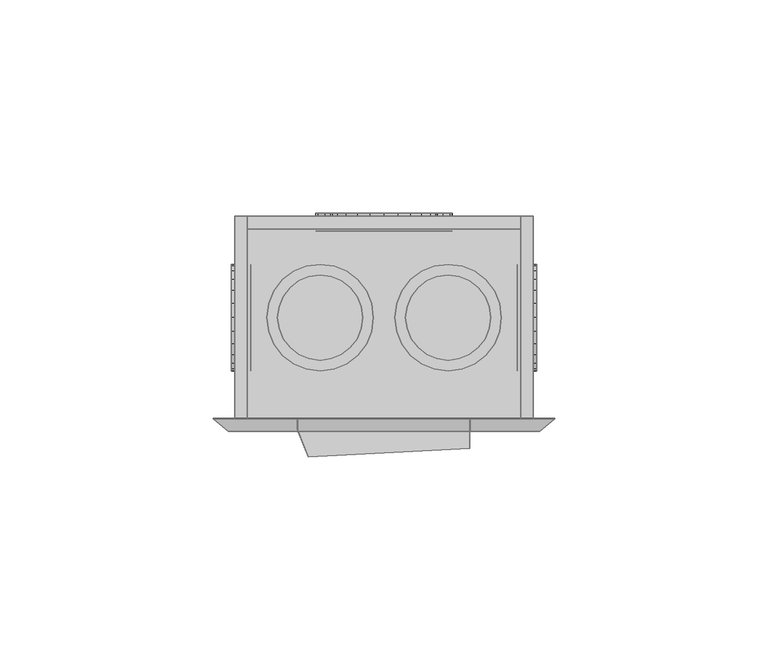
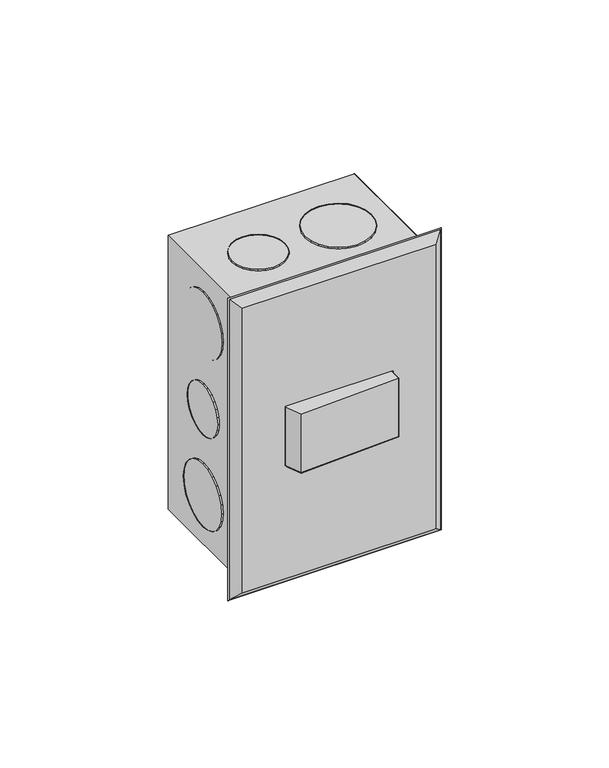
"""IFC4 building model written with IfcOpenShell, lengths in millimetres: proxy geometry,  211103 :  211103."""

from ifc_helpers import new_model, si_unit, origin, place, context, project, spatial, triangles, source, transform, mapped, element, save


def generic_models_f615f667(model_context):
    return source(origin(), model_context, "Body", "Tessellation", [
        triangles([(17486.1001099, 13148.6997437, 1254.3000378), (17483.100293, 13148.6997437, 1148.7000154), (17486.1001099, 13148.6997437, 1145.6999805), (17483.100293, 13148.6997437, 1251.2999302), (17416.0997314, 13148.6997437, 1254.3000378), (17419.0995483, 13148.6997437, 1251.2999302), (17416.0997314, 13148.6997437, 1145.6999805), (17419.0995483, 13148.6997437, 1148.7000154), (17483.100293, 13196.2003326, 1251.2999302), (17483.100293, 13196.2003326, 1148.7000154), (17416.0997314, 13196.2003326, 1254.3000378), (17416.0997314, 13196.2003326, 1145.6999805), (17419.0995483, 13196.2003326, 1251.2999302), (17486.1001099, 13196.2003326, 1145.6999805), (17419.0995483, 13196.2003326, 1148.7000154), (17486.1001099, 13196.2003326, 1254.3000378), (17483.100293, 13193.2005157, 1251.2999302), (17419.0995483, 13193.2005157, 1148.7000154), (17483.100293, 13193.2005157, 1148.7000154), (17419.0995483, 13193.2005157, 1251.2999302), (17465.000235, 13192.7005463, 1191.9999887), (17459.0994324, 13192.7005463, 1186.0999855), (17462.4003937, 13192.7005463, 1188.6999722), (17466.6001373, 13192.7005463, 1195.8999687), (17455.2996643, 13192.7005463, 1184.5000105), (17467.1001068, 13192.7005463, 1200.0000092), (17451.0999207, 13192.7005463, 1183.9999683), (17466.6001373, 13192.7005463, 1204.0999769), (17447.0001709, 13192.7005463, 1184.5000105), (17465.000235, 13192.7005463, 1208.0000296), (17443.1004089, 13192.7005463, 1186.0999855), (17462.4003937, 13192.7005463, 1211.2999735), (17439.7994476, 13192.7005463, 1188.6999722), (17459.0994324, 13192.7005463, 1213.9000328), (17437.2996002, 13192.7005463, 1191.9999887), (17455.2996643, 13192.7005463, 1215.5000078), (17435.6996979, 13192.7005463, 1195.8999687), (17451.0999207, 13192.7005463, 1215.9999773), (17435.0997345, 13192.7005463, 1200.0000092), (17447.0001709, 13192.7005463, 1215.5000078), (17435.6996979, 13192.7005463, 1204.0999769), (17443.1004089, 13192.7005463, 1213.9000328), (17437.2996002, 13192.7005463, 1208.0000296), (17439.7994476, 13192.7005463, 1211.2999735), (17447.0001709, 13196.9002899, 1184.5000105), (17451.0999207, 13196.9002899, 1183.9999683), (17455.2996643, 13196.9002899, 1184.5000105), (17459.0994324, 13196.9002899, 1186.0999855), (17462.4003937, 13196.9002899, 1188.6999722), (17465.000235, 13196.9002899, 1191.9999887), (17466.6001373, 13196.9002899, 1195.8999687), (17467.1001068, 13196.9002899, 1200.0000092), (17466.6001373, 13196.9002899, 1204.0999769), (17465.000235, 13196.9002899, 1208.0000296), (17462.4003937, 13196.9002899, 1211.2999735), (17459.0994324, 13196.9002899, 1213.9000328), (17455.2996643, 13196.9002899, 1215.5000078), (17451.0999207, 13196.9002899, 1215.9999773), (17447.0001709, 13196.9002899, 1215.5000078), (17443.1004089, 13196.9002899, 1213.9000328), (17439.7994476, 13196.9002899, 1211.2999735), (17437.2996002, 13196.9002899, 1208.0000296), (17435.6996979, 13196.9002899, 1204.0999769), (17435.0997345, 13196.9002899, 1200.0000092), (17435.6996979, 13196.9002899, 1195.8999687), (17437.2996002, 13196.9002899, 1191.9999887), (17439.7994476, 13196.9002899, 1188.6999722), (17443.1004089, 13196.9002899, 1186.0999855), (17462.0004181, 13192.7005463, 1227.8000565), (17457.3995361, 13192.7005463, 1223.2000465), (17460.0005402, 13192.7005463, 1225.2000698), (17463.2003448, 13192.7005463, 1230.8000187), (17454.3997192, 13192.7005463, 1221.8999805), (17463.6003204, 13192.7005463, 1233.9999687), (17451.0999207, 13192.7005463, 1221.500005), (17463.2003448, 13192.7005463, 1237.2000641), (17447.900116, 13192.7005463, 1221.8999805), (17462.0004181, 13192.7005463, 1240.3000202), (17444.9002991, 13192.7005463, 1223.2000465), (17460.0005402, 13192.7005463, 1242.800013), (17442.3004578, 13192.7005463, 1225.2000698), (17440.3005798, 13192.7005463, 1227.8000565), (17457.3995361, 13192.7005463, 1244.8000362), (17454.3997192, 13192.7005463, 1246.0999569), (17439.0994904, 13192.7005463, 1230.8000187), (17451.0999207, 13192.7005463, 1246.4999325), (17438.5995209, 13192.7005463, 1233.9999687), (17447.900116, 13192.7005463, 1246.0999569), (17439.0994904, 13192.7005463, 1237.2000641), (17440.3005798, 13192.7005463, 1240.3000202), (17444.9002991, 13192.7005463, 1244.8000362), (17442.3004578, 13192.7005463, 1242.800013), (17439.0994904, 13196.9002899, 1230.8000187), (17440.3005798, 13196.9002899, 1227.8000565), (17442.3004578, 13196.9002899, 1225.2000698), (17444.9002991, 13196.9002899, 1223.2000465), (17447.900116, 13196.9002899, 1221.8999805), (17451.0999207, 13196.9002899, 1221.500005), (17454.3997192, 13196.9002899, 1221.8999805), (17457.3995361, 13196.9002899, 1223.2000465), (17460.0005402, 13196.9002899, 1225.2000698), (17462.0004181, 13196.9002899, 1227.8000565), (17463.2003448, 13196.9002899, 1230.8000187), (17463.6003204, 13196.9002899, 1233.9999687), (17463.2003448, 13196.9002899, 1237.2000641), (17462.0004181, 13196.9002899, 1240.3000202), (17460.0005402, 13196.9002899, 1242.800013), (17457.3995361, 13196.9002899, 1244.8000362), (17454.3997192, 13196.9002899, 1246.0999569), (17451.0999207, 13196.9002899, 1246.4999325), (17447.900116, 13196.9002899, 1246.0999569), (17444.9002991, 13196.9002899, 1244.8000362), (17442.3004578, 13196.9002899, 1242.800013), (17440.3005798, 13196.9002899, 1240.3000202), (17439.0994904, 13196.9002899, 1237.2000641), (17438.5995209, 13196.9002899, 1233.9999687), (17457.3995361, 13196.9002899, 1155.1999821), (17462.0004181, 13196.9002899, 1159.6999981), (17460.0005402, 13196.9002899, 1157.2000053), (17454.3997192, 13196.9002899, 1153.8999887), (17463.2003448, 13196.9002899, 1162.8000269), (17451.0999207, 13196.9002899, 1153.5000132), (17463.6003204, 13196.9002899, 1165.9999769), (17447.900116, 13196.9002899, 1153.8999887), (17463.2003448, 13196.9002899, 1169.1999996), (17444.9002991, 13196.9002899, 1155.1999821), (17462.0004181, 13196.9002899, 1172.2000345), (17442.3004578, 13196.9002899, 1157.2000053), (17460.0005402, 13196.9002899, 1174.8000212), (17440.3005798, 13196.9002899, 1159.6999981), (17457.3995361, 13196.9002899, 1176.7999718), (17439.0994904, 13196.9002899, 1162.8000269), (17454.3997192, 13196.9002899, 1178.0999651), (17451.0999207, 13196.9002899, 1178.5000134), (17438.5995209, 13196.9002899, 1165.9999769), (17439.0994904, 13196.9002899, 1169.1999996), (17447.900116, 13196.9002899, 1178.0999651), (17440.3005798, 13196.9002899, 1172.2000345), (17444.9002991, 13196.9002899, 1176.7999718), (17442.3004578, 13196.9002899, 1174.8000212), (17454.3997192, 13192.7005463, 1178.0999651), (17451.0999207, 13192.7005463, 1178.5000134), (17457.3995361, 13192.7005463, 1176.7999718), (17460.0005402, 13192.7005463, 1174.8000212), (17462.0004181, 13192.7005463, 1172.2000345), (17463.2003448, 13192.7005463, 1169.1999996), (17463.6003204, 13192.7005463, 1165.9999769), (17463.2003448, 13192.7005463, 1162.8000269), (17462.0004181, 13192.7005463, 1159.6999981), (17460.0005402, 13192.7005463, 1157.2000053), (17457.3995361, 13192.7005463, 1155.1999821), (17454.3997192, 13192.7005463, 1153.8999887), (17451.0999207, 13192.7005463, 1153.5000132), (17447.900116, 13192.7005463, 1153.8999887), (17444.9002991, 13192.7005463, 1155.1999821), (17442.3004578, 13192.7005463, 1157.2000053), (17440.3005798, 13192.7005463, 1159.6999981), (17439.0994904, 13192.7005463, 1162.8000269), (17438.5995209, 13192.7005463, 1165.9999769), (17439.0994904, 13192.7005463, 1169.1999996), (17440.3005798, 13192.7005463, 1172.2000345), (17442.3004578, 13192.7005463, 1174.8000212), (17444.9002991, 13192.7005463, 1176.7999718), (17447.900116, 13192.7005463, 1178.0999651), (17482.3003418, 13177.4003174, 1191.3000315), (17482.3003418, 13181.1000916, 1195.0000237), (17482.3003418, 13179.5001892, 1192.9000065), (17482.3003418, 13182.1000305, 1197.4000225), (17482.3003418, 13175.0004639, 1190.3000198), (17482.3003418, 13182.4000122, 1200.0000092), (17482.3003418, 13172.3994598, 1189.9999655), (17482.3003418, 13169.8996124, 1190.3000198), (17482.3003418, 13182.1000305, 1202.5999958), (17482.3003418, 13181.1000916, 1204.9999947), (17482.3003418, 13167.399765, 1191.3000315), (17482.3003418, 13179.5001892, 1207.1000118), (17482.3003418, 13165.3998871, 1192.9000065), (17482.3003418, 13163.7999847, 1195.0000237), (17482.3003418, 13177.4003174, 1208.6999868), (17482.3003418, 13162.8000458, 1197.4000225), (17482.3003418, 13175.0004639, 1209.6999985), (17482.3003418, 13162.4000702, 1200.0000092), (17482.3003418, 13172.3994598, 1209.9999802), (17482.3003418, 13162.8000458, 1202.5999958), (17482.3003418, 13169.8996124, 1209.6999985), (17482.3003418, 13167.399765, 1208.6999868), (17482.3003418, 13163.7999847, 1204.9999947), (17482.3003418, 13165.3998871, 1207.1000118), (17486.900061, 13172.3994598, 1189.9999655), (17486.900061, 13175.0004639, 1190.3000198), (17486.900061, 13169.8996124, 1190.3000198), (17486.900061, 13167.399765, 1191.3000315), (17486.900061, 13165.3998871, 1192.9000065), (17486.900061, 13163.7999847, 1195.0000237), (17486.900061, 13162.8000458, 1197.4000225), (17486.900061, 13162.4000702, 1200.0000092), (17486.900061, 13162.8000458, 1202.5999958), (17486.900061, 13163.7999847, 1204.9999947), (17486.900061, 13165.3998871, 1207.1000118), (17486.900061, 13167.399765, 1208.6999868), (17486.900061, 13169.8996124, 1209.6999985), (17486.900061, 13172.3994598, 1209.9999802), (17486.900061, 13175.0004639, 1209.6999985), (17486.900061, 13177.4003174, 1208.6999868), (17486.900061, 13179.5001892, 1207.1000118), (17486.900061, 13181.1000916, 1204.9999947), (17486.900061, 13182.1000305, 1202.5999958), (17486.900061, 13182.4000122, 1200.0000092), (17486.900061, 13182.1000305, 1197.4000225), (17486.900061, 13181.1000916, 1195.0000237), (17486.900061, 13179.5001892, 1192.9000065), (17486.900061, 13177.4003174, 1191.3000315), (17482.3003418, 13178.700238, 1223.2000465), (17482.3003418, 13183.2999573, 1227.8000565), (17482.3003418, 13181.3000793, 1225.2000698), (17482.3003418, 13175.7004211, 1221.8999805), (17482.3003418, 13184.499884, 1230.8000187), (17482.3003418, 13184.8998596, 1233.9999687), (17482.3003418, 13172.3994598, 1221.500005), (17482.3003418, 13169.1996552, 1221.8999805), (17482.3003418, 13184.499884, 1237.2000641), (17482.3003418, 13183.2999573, 1240.3000202), (17482.3003418, 13166.1998383, 1223.2000465), (17482.3003418, 13163.5999969, 1225.2000698), (17482.3003418, 13181.3000793, 1242.800013), (17482.3003418, 13161.600119, 1227.8000565), (17482.3003418, 13178.700238, 1244.8000362), (17482.3003418, 13160.4001923, 1230.8000187), (17482.3003418, 13175.7004211, 1246.0999569), (17482.3003418, 13159.9002228, 1233.9999687), (17482.3003418, 13172.3994598, 1246.4999325), (17482.3003418, 13160.4001923, 1237.2000641), (17482.3003418, 13169.1996552, 1246.0999569), (17482.3003418, 13161.600119, 1240.3000202), (17482.3003418, 13166.1998383, 1244.8000362), (17482.3003418, 13163.5999969, 1242.800013), (17486.900061, 13172.3994598, 1221.500005), (17486.900061, 13175.7004211, 1221.8999805), (17486.900061, 13169.1996552, 1221.8999805), (17486.900061, 13166.1998383, 1223.2000465), (17486.900061, 13163.5999969, 1225.2000698), (17486.900061, 13161.600119, 1227.8000565), (17486.900061, 13160.4001923, 1230.8000187), (17486.900061, 13159.9002228, 1233.9999687), (17486.900061, 13160.4001923, 1237.2000641), (17486.900061, 13161.600119, 1240.3000202), (17486.900061, 13163.5999969, 1242.800013), (17486.900061, 13166.1998383, 1244.8000362), (17486.900061, 13169.1996552, 1246.0999569), (17486.900061, 13172.3994598, 1246.4999325), (17486.900061, 13175.7004211, 1246.0999569), (17486.900061, 13178.700238, 1244.8000362), (17486.900061, 13181.3000793, 1242.800013), (17486.900061, 13183.2999573, 1240.3000202), (17486.900061, 13184.499884, 1237.2000641), (17486.900061, 13184.8998596, 1233.9999687), (17486.900061, 13184.499884, 1230.8000187), (17486.900061, 13183.2999573, 1227.8000565), (17486.900061, 13181.3000793, 1225.2000698), (17486.900061, 13178.700238, 1223.2000465), (17486.900061, 13183.2999573, 1159.6999981), (17486.900061, 13178.700238, 1155.1999821), (17486.900061, 13181.3000793, 1157.2000053), (17486.900061, 13184.499884, 1162.8000269), (17486.900061, 13175.7004211, 1153.8999887), (17486.900061, 13184.8998596, 1165.9999769), (17486.900061, 13172.3994598, 1153.5000132), (17486.900061, 13184.499884, 1169.1999996), (17486.900061, 13169.1996552, 1153.8999887), (17486.900061, 13183.2999573, 1172.2000345), (17486.900061, 13166.1998383, 1155.1999821), (17486.900061, 13181.3000793, 1174.8000212), (17486.900061, 13163.5999969, 1157.2000053), (17486.900061, 13178.700238, 1176.7999718), (17486.900061, 13161.600119, 1159.6999981), (17486.900061, 13175.7004211, 1178.0999651), (17486.900061, 13160.4001923, 1162.8000269), (17486.900061, 13172.3994598, 1178.5000134), (17486.900061, 13159.9002228, 1165.9999769), (17486.900061, 13169.1996552, 1178.0999651), (17486.900061, 13160.4001923, 1169.1999996), (17486.900061, 13166.1998383, 1176.7999718), (17486.900061, 13161.600119, 1172.2000345), (17486.900061, 13163.5999969, 1174.8000212), (17482.3003418, 13175.7004211, 1178.0999651), (17482.3003418, 13172.3994598, 1178.5000134), (17482.3003418, 13169.1996552, 1178.0999651), (17482.3003418, 13166.1998383, 1176.7999718), (17482.3003418, 13163.5999969, 1174.8000212), (17482.3003418, 13161.600119, 1172.2000345), (17482.3003418, 13160.4001923, 1169.1999996), (17482.3003418, 13159.9002228, 1165.9999769), (17482.3003418, 13160.4001923, 1162.8000269), (17482.3003418, 13161.600119, 1159.6999981), (17482.3003418, 13163.5999969, 1157.2000053), (17482.3003418, 13166.1998383, 1155.1999821), (17482.3003418, 13169.1996552, 1153.8999887), (17482.3003418, 13172.3994598, 1153.5000132), (17482.3003418, 13175.7004211, 1153.8999887), (17482.3003418, 13178.700238, 1155.1999821), (17482.3003418, 13181.3000793, 1157.2000053), (17482.3003418, 13183.2999573, 1159.6999981), (17482.3003418, 13184.499884, 1162.8000269), (17482.3003418, 13184.8998596, 1165.9999769), (17482.3003418, 13184.499884, 1169.1999996), (17482.3003418, 13183.2999573, 1172.2000345), (17482.3003418, 13181.3000793, 1174.8000212), (17482.3003418, 13178.700238, 1176.7999718), (17419.8994995, 13181.1000916, 1195.0000237), (17419.8994995, 13177.4003174, 1191.3000315), (17419.8994995, 13179.5001892, 1192.9000065), (17419.8994995, 13182.1000305, 1197.4000225), (17419.8994995, 13175.0004639, 1190.3000198), (17419.8994995, 13182.4000122, 1200.0000092), (17419.8994995, 13172.3994598, 1189.9999655), (17419.8994995, 13182.1000305, 1202.5999958), (17419.8994995, 13169.8996124, 1190.3000198), (17419.8994995, 13181.1000916, 1204.9999947), (17419.8994995, 13167.399765, 1191.3000315), (17419.8994995, 13179.5001892, 1207.1000118), (17419.8994995, 13165.3998871, 1192.9000065), (17419.8994995, 13177.4003174, 1208.6999868), (17419.8994995, 13163.7999847, 1195.0000237), (17419.8994995, 13175.0004639, 1209.6999985), (17419.8994995, 13162.8000458, 1197.4000225), (17419.8994995, 13162.4000702, 1200.0000092), (17419.8994995, 13172.3994598, 1209.9999802), (17419.8994995, 13169.8996124, 1209.6999985), (17419.8994995, 13162.8000458, 1202.5999958), (17419.8994995, 13167.399765, 1208.6999868), (17419.8994995, 13163.7999847, 1204.9999947), (17419.8994995, 13165.3998871, 1207.1000118), (17415.2997803, 13175.0004639, 1209.6999985), (17415.2997803, 13172.3994598, 1209.9999802), (17415.2997803, 13169.8996124, 1209.6999985), (17415.2997803, 13167.399765, 1208.6999868), (17415.2997803, 13165.3998871, 1207.1000118), (17415.2997803, 13163.7999847, 1204.9999947), (17415.2997803, 13162.8000458, 1202.5999958), (17415.2997803, 13162.4000702, 1200.0000092), (17415.2997803, 13162.8000458, 1197.4000225), (17415.2997803, 13163.7999847, 1195.0000237), (17415.2997803, 13165.3998871, 1192.9000065), (17415.2997803, 13167.399765, 1191.3000315), (17415.2997803, 13169.8996124, 1190.3000198), (17415.2997803, 13172.3994598, 1189.9999655), (17415.2997803, 13175.0004639, 1190.3000198), (17415.2997803, 13177.4003174, 1191.3000315), (17415.2997803, 13179.5001892, 1192.9000065), (17415.2997803, 13181.1000916, 1195.0000237), (17415.2997803, 13182.1000305, 1197.4000225), (17415.2997803, 13182.4000122, 1200.0000092), (17415.2997803, 13182.1000305, 1202.5999958), (17415.2997803, 13181.1000916, 1204.9999947), (17415.2997803, 13179.5001892, 1207.1000118), (17415.2997803, 13177.4003174, 1208.6999868), (17419.8994995, 13183.2999573, 1159.6999981), (17419.8994995, 13178.700238, 1155.1999821), (17419.8994995, 13181.3000793, 1157.2000053), (17419.8994995, 13184.499884, 1162.8000269), (17419.8994995, 13175.7004211, 1153.8999887), (17419.8994995, 13184.8998596, 1165.9999769), (17419.8994995, 13172.3994598, 1153.5000132), (17419.8994995, 13184.499884, 1169.1999996), (17419.8994995, 13169.1996552, 1153.8999887), (17419.8994995, 13183.2999573, 1172.2000345), (17419.8994995, 13166.1998383, 1155.1999821), (17419.8994995, 13181.3000793, 1174.8000212), (17419.8994995, 13163.5999969, 1157.2000053), (17419.8994995, 13178.700238, 1176.7999718), (17419.8994995, 13161.600119, 1159.6999981), (17419.8994995, 13175.7004211, 1178.0999651), (17419.8994995, 13160.4001923, 1162.8000269), (17419.8994995, 13172.3994598, 1178.5000134), (17419.8994995, 13159.9002228, 1165.9999769), (17419.8994995, 13169.1996552, 1178.0999651), (17419.8994995, 13160.4001923, 1169.1999996), (17419.8994995, 13166.1998383, 1176.7999718), (17419.8994995, 13161.600119, 1172.2000345), (17419.8994995, 13163.5999969, 1174.8000212), (17415.2997803, 13175.7004211, 1178.0999651), (17415.2997803, 13172.3994598, 1178.5000134), (17415.2997803, 13169.1996552, 1178.0999651), (17415.2997803, 13166.1998383, 1176.7999718), (17415.2997803, 13163.5999969, 1174.8000212), (17415.2997803, 13161.600119, 1172.2000345), (17415.2997803, 13160.4001923, 1169.1999996), (17415.2997803, 13159.9002228, 1165.9999769), (17415.2997803, 13160.4001923, 1162.8000269), (17415.2997803, 13161.600119, 1159.6999981), (17415.2997803, 13163.5999969, 1157.2000053), (17415.2997803, 13166.1998383, 1155.1999821), (17415.2997803, 13169.1996552, 1153.8999887), (17415.2997803, 13172.3994598, 1153.5000132), (17415.2997803, 13175.7004211, 1153.8999887), (17415.2997803, 13178.700238, 1155.1999821), (17415.2997803, 13181.3000793, 1157.2000053), (17415.2997803, 13183.2999573, 1159.6999981), (17415.2997803, 13184.499884, 1162.8000269), (17415.2997803, 13184.8998596, 1165.9999769), (17415.2997803, 13184.499884, 1169.1999996), (17415.2997803, 13183.2999573, 1172.2000345), (17415.2997803, 13181.3000793, 1174.8000212), (17415.2997803, 13178.700238, 1176.7999718), (17415.2997803, 13178.700238, 1223.2000465), (17415.2997803, 13183.2999573, 1227.8000565), (17415.2997803, 13181.3000793, 1225.2000698), (17415.2997803, 13175.7004211, 1221.8999805), (17415.2997803, 13184.499884, 1230.8000187), (17415.2997803, 13184.8998596, 1233.9999687), (17415.2997803, 13172.3994598, 1221.500005), (17415.2997803, 13169.1996552, 1221.8999805), (17415.2997803, 13184.499884, 1237.2000641), (17415.2997803, 13183.2999573, 1240.3000202), (17415.2997803, 13166.1998383, 1223.2000465), (17415.2997803, 13163.5999969, 1225.2000698), (17415.2997803, 13181.3000793, 1242.800013), (17415.2997803, 13161.600119, 1227.8000565), (17415.2997803, 13178.700238, 1244.8000362), (17415.2997803, 13160.4001923, 1230.8000187), (17415.2997803, 13175.7004211, 1246.0999569), (17415.2997803, 13159.9002228, 1233.9999687), (17415.2997803, 13172.3994598, 1246.4999325), (17415.2997803, 13160.4001923, 1237.2000641), (17415.2997803, 13169.1996552, 1246.0999569), (17415.2997803, 13161.600119, 1240.3000202), (17415.2997803, 13166.1998383, 1244.8000362), (17415.2997803, 13163.5999969, 1242.800013), (17419.8994995, 13172.3994598, 1221.500005), (17419.8994995, 13175.7004211, 1221.8999805), (17419.8994995, 13169.1996552, 1221.8999805), (17419.8994995, 13166.1998383, 1223.2000465), (17419.8994995, 13163.5999969, 1225.2000698), (17419.8994995, 13161.600119, 1227.8000565), (17419.8994995, 13160.4001923, 1230.8000187), (17419.8994995, 13159.9002228, 1233.9999687), (17419.8994995, 13160.4001923, 1237.2000641), (17419.8994995, 13161.600119, 1240.3000202), (17419.8994995, 13163.5999969, 1242.800013), (17419.8994995, 13166.1998383, 1244.8000362), (17419.8994995, 13169.1996552, 1246.0999569), (17419.8994995, 13172.3994598, 1246.4999325), (17419.8994995, 13175.7004211, 1246.0999569), (17419.8994995, 13178.700238, 1244.8000362), (17419.8994995, 13181.3000793, 1242.800013), (17419.8994995, 13183.2999573, 1240.3000202), (17419.8994995, 13184.499884, 1237.2000641), (17419.8994995, 13184.8998596, 1233.9999687), (17419.8994995, 13184.499884, 1230.8000187), (17419.8994995, 13183.2999573, 1227.8000565), (17419.8994995, 13181.3000793, 1225.2000698), (17419.8994995, 13178.700238, 1223.2000465), (17476.9995026, 13178.700238, 1250.9999485), (17472.3997833, 13183.2999573, 1250.9999485), (17474.9996246, 13181.3000793, 1250.9999485), (17478.1994293, 13175.7004211, 1250.9999485), (17469.3999664, 13184.499884, 1250.9999485), (17466.1001678, 13184.8998596, 1250.9999485), (17478.6005676, 13172.3994598, 1250.9999485), (17478.1994293, 13169.1996552, 1250.9999485), (17462.9003632, 13184.499884, 1250.9999485), (17459.9005463, 13183.2999573, 1250.9999485), (17476.9995026, 13166.1998383, 1250.9999485), (17474.9996246, 13163.5999969, 1250.9999485), (17457.2995422, 13181.3000793, 1250.9999485), (17455.2996643, 13178.700238, 1250.9999485), (17472.3997833, 13161.600119, 1250.9999485), (17469.3999664, 13160.4001923, 1250.9999485), (17454.0997375, 13175.7004211, 1250.9999485), (17466.1001678, 13159.9002228, 1250.9999485), (17453.5997681, 13172.3994598, 1250.9999485), (17462.9003632, 13160.4001923, 1250.9999485), (17454.0997375, 13169.1996552, 1250.9999485), (17455.2996643, 13166.1998383, 1250.9999485), (17459.9005463, 13161.600119, 1250.9999485), (17457.2995422, 13163.5999969, 1250.9999485), (17466.1001678, 13184.8998596, 1255.1999828), (17462.9003632, 13184.499884, 1255.1999828), (17469.3999664, 13184.499884, 1255.1999828), (17472.3997833, 13183.2999573, 1255.1999828), (17474.9996246, 13181.3000793, 1255.1999828), (17476.9995026, 13178.700238, 1255.1999828), (17478.1994293, 13175.7004211, 1255.1999828), (17478.6005676, 13172.3994598, 1255.1999828), (17478.1994293, 13169.1996552, 1255.1999828), (17476.9995026, 13166.1998383, 1255.1999828), (17474.9996246, 13163.5999969, 1255.1999828), (17472.3997833, 13161.600119, 1255.1999828), (17469.3999664, 13160.4001923, 1255.1999828), (17466.1001678, 13159.9002228, 1255.1999828), (17462.9003632, 13160.4001923, 1255.1999828), (17459.9005463, 13161.600119, 1255.1999828), (17457.2995422, 13163.5999969, 1255.1999828), (17455.2996643, 13166.1998383, 1255.1999828), (17454.0997375, 13169.1996552, 1255.1999828), (17453.5997681, 13172.3994598, 1255.1999828), (17454.0997375, 13175.7004211, 1255.1999828), (17455.2996643, 13178.700238, 1255.1999828), (17457.2995422, 13181.3000793, 1255.1999828), (17459.9005463, 13183.2999573, 1255.1999828), (17444.8003052, 13177.4003174, 1250.9999485), (17441.100531, 13181.1000916, 1250.9999485), (17443.2004028, 13179.5001892, 1250.9999485), (17438.6995148, 13182.1000305, 1250.9999485), (17445.8002441, 13175.0004639, 1250.9999485), (17436.0996735, 13182.4000122, 1250.9999485), (17446.1002258, 13172.3994598, 1250.9999485), (17445.8002441, 13169.8996124, 1250.9999485), (17433.4998322, 13182.1000305, 1250.9999485), (17431.0999786, 13181.1000916, 1250.9999485), (17444.8003052, 13167.399765, 1250.9999485), (17429.1001007, 13179.5001892, 1250.9999485), (17443.2004028, 13165.3998871, 1250.9999485), (17441.100531, 13163.7999847, 1250.9999485), (17427.5001984, 13177.4003174, 1250.9999485), (17426.5002594, 13175.0004639, 1250.9999485), (17438.6995148, 13162.8000458, 1250.9999485), (17436.0996735, 13162.4000702, 1250.9999485), (17426.1002838, 13172.3994598, 1250.9999485), (17433.4998322, 13162.8000458, 1250.9999485), (17426.5002594, 13169.8996124, 1250.9999485), (17431.0999786, 13163.7999847, 1250.9999485), (17427.5001984, 13167.399765, 1250.9999485), (17429.1001007, 13165.3998871, 1250.9999485), (17433.4998322, 13182.1000305, 1255.1999828), (17431.0999786, 13181.1000916, 1255.1999828), (17436.0996735, 13182.4000122, 1255.1999828), (17438.6995148, 13182.1000305, 1255.1999828), (17441.100531, 13181.1000916, 1255.1999828), (17443.2004028, 13179.5001892, 1255.1999828), (17444.8003052, 13177.4003174, 1255.1999828), (17445.8002441, 13175.0004639, 1255.1999828), (17446.1002258, 13172.3994598, 1255.1999828), (17445.8002441, 13169.8996124, 1255.1999828), (17444.8003052, 13167.399765, 1255.1999828), (17443.2004028, 13165.3998871, 1255.1999828), (17441.100531, 13163.7999847, 1255.1999828), (17438.6995148, 13162.8000458, 1255.1999828), (17436.0996735, 13162.4000702, 1255.1999828), (17433.4998322, 13162.8000458, 1255.1999828), (17431.0999786, 13163.7999847, 1255.1999828), (17429.1001007, 13165.3998871, 1255.1999828), (17427.5001984, 13167.399765, 1255.1999828), (17426.5002594, 13169.8996124, 1255.1999828), (17426.1002838, 13172.3994598, 1255.1999828), (17426.5002594, 13175.0004639, 1255.1999828), (17427.5001984, 13177.4003174, 1255.1999828), (17429.1001007, 13179.5001892, 1255.1999828), (17474.7996368, 13177.4003174, 1144.8000355), (17471.0998627, 13181.1000916, 1144.8000355), (17473.1997345, 13179.5001892, 1144.8000355), (17468.7000092, 13182.1000305, 1144.8000355), (17475.7995758, 13175.0004639, 1144.8000355), (17466.1001678, 13182.4000122, 1144.8000355), (17476.0995575, 13172.3994598, 1144.8000355), (17475.7995758, 13169.8996124, 1144.8000355), (17463.5003265, 13182.1000305, 1144.8000355), (17461.100473, 13181.1000916, 1144.8000355), (17474.7996368, 13167.399765, 1144.8000355), (17459.0994324, 13179.5001892, 1144.8000355), (17473.1997345, 13165.3998871, 1144.8000355), (17471.0998627, 13163.7999847, 1144.8000355), (17457.49953, 13177.4003174, 1144.8000355), (17456.4995911, 13175.0004639, 1144.8000355), (17468.7000092, 13162.8000458, 1144.8000355), (17466.1001678, 13162.4000702, 1144.8000355), (17456.0996155, 13172.3994598, 1144.8000355), (17463.5003265, 13162.8000458, 1144.8000355), (17456.4995911, 13169.8996124, 1144.8000355), (17461.100473, 13163.7999847, 1144.8000355), (17457.49953, 13167.399765, 1144.8000355), (17459.0994324, 13165.3998871, 1144.8000355), (17468.7000092, 13182.1000305, 1149.099991), (17466.1001678, 13182.4000122, 1149.099991), (17471.0998627, 13181.1000916, 1149.099991), (17473.1997345, 13179.5001892, 1149.099991), (17474.7996368, 13177.4003174, 1149.099991), (17475.7995758, 13175.0004639, 1149.099991), (17476.0995575, 13172.3994598, 1149.099991), (17475.7995758, 13169.8996124, 1149.099991), (17474.7996368, 13167.399765, 1149.099991), (17473.1997345, 13165.3998871, 1149.099991), (17471.0998627, 13163.7999847, 1149.099991), (17468.7000092, 13162.8000458, 1149.099991), (17466.1001678, 13162.4000702, 1149.099991), (17463.5003265, 13162.8000458, 1149.099991), (17461.100473, 13163.7999847, 1149.099991), (17459.0994324, 13165.3998871, 1149.099991), (17457.49953, 13167.399765, 1149.099991), (17456.4995911, 13169.8996124, 1149.099991), (17456.0996155, 13172.3994598, 1149.099991), (17456.4995911, 13175.0004639, 1149.099991), (17457.49953, 13177.4003174, 1149.099991), (17459.0994324, 13179.5001892, 1149.099991), (17461.100473, 13181.1000916, 1149.099991), (17463.5003265, 13182.1000305, 1149.099991), (17447.0001709, 13178.700238, 1144.8000355), (17442.4004517, 13183.2999573, 1144.8000355), (17445.000293, 13181.3000793, 1144.8000355), (17448.2000977, 13175.7004211, 1144.8000355), (17439.399472, 13184.499884, 1144.8000355), (17436.0996735, 13184.8998596, 1144.8000355), (17448.6000732, 13172.3994598, 1144.8000355), (17448.2000977, 13169.1996552, 1144.8000355), (17432.8998688, 13184.499884, 1144.8000355), (17429.9000519, 13183.2999573, 1144.8000355), (17447.0001709, 13166.1998383, 1144.8000355), (17445.000293, 13163.5999969, 1144.8000355), (17427.3002106, 13181.3000793, 1144.8000355), (17425.3003326, 13178.700238, 1144.8000355), (17442.4004517, 13161.600119, 1144.8000355), (17439.399472, 13160.4001923, 1144.8000355), (17424.1004059, 13175.7004211, 1144.8000355), (17436.0996735, 13159.9002228, 1144.8000355), (17423.6004364, 13172.3994598, 1144.8000355), (17432.8998688, 13160.4001923, 1144.8000355), (17424.1004059, 13169.1996552, 1144.8000355), (17425.3003326, 13166.1998383, 1144.8000355), (17429.9000519, 13161.600119, 1144.8000355), (17427.3002106, 13163.5999969, 1144.8000355), (17432.8998688, 13184.499884, 1149.099991), (17429.9000519, 13183.2999573, 1149.099991), (17436.0996735, 13184.8998596, 1149.099991), (17439.399472, 13184.499884, 1149.099991), (17442.4004517, 13183.2999573, 1149.099991), (17445.000293, 13181.3000793, 1149.099991), (17447.0001709, 13178.700238, 1149.099991), (17448.2000977, 13175.7004211, 1149.099991), (17448.6000732, 13172.3994598, 1149.099991), (17448.2000977, 13169.1996552, 1149.099991), (17447.0001709, 13166.1998383, 1149.099991), (17445.000293, 13163.5999969, 1149.099991), (17442.4004517, 13161.600119, 1149.099991), (17439.399472, 13160.4001923, 1149.099991), (17436.0996735, 13159.9002228, 1149.099991), (17432.8998688, 13160.4001923, 1149.099991), (17429.9000519, 13161.600119, 1149.099991), (17427.3002106, 13163.5999969, 1149.099991), (17425.3003326, 13166.1998383, 1149.099991), (17424.1004059, 13169.1996552, 1149.099991), (17423.6004364, 13172.3994598, 1149.099991), (17424.1004059, 13175.7004211, 1149.099991), (17425.3003326, 13178.700238, 1149.099991), (17427.3002106, 13181.3000793, 1149.099991), (17411.1000366, 13148.6997437, 1139.9999651), (17471.2998505, 13148.6997437, 1188.2999966), (17491.0998047, 13148.6997437, 1139.9999651), (17430.8999908, 13148.6997437, 1188.2999966), (17411.1000366, 13148.6997437, 1259.9999805), (17430.8999908, 13148.6997437, 1211.7000217), (17491.0998047, 13148.6997437, 1259.9999805), (17471.2998505, 13148.6997437, 1211.7000217), (17430.8999908, 13145.6999268, 1188.2999966), (17430.8999908, 13145.6999268, 1211.7000217), (17471.2998505, 13145.6999268, 1188.2999966), (17471.2998505, 13145.6999268, 1211.7000217), (17487.6000183, 13145.6999268, 1143.4999695), (17487.6000183, 13145.6999268, 1256.5000488), (17414.599823, 13145.6999268, 1143.4999695), (17414.599823, 13145.6999268, 1256.5000488), (17471.1998566, 13141.7001709, 1188.1000088), (17430.7999969, 13148.6997437, 1188.1000088), (17471.1998566, 13148.6997437, 1188.1000088), (17433.3998383, 13139.8002869, 1188.1000088), (17430.7999969, 13146.1998962, 1188.1000088), (17471.1998566, 13148.6997437, 1211.500034), (17430.7999969, 13148.6997437, 1211.500034), (17471.1998566, 13141.7001709, 1211.500034), (17433.3998383, 13139.8002869, 1211.500034), (17430.7999969, 13146.1998962, 1211.500034)], [[1, 2, 3], [2, 1, 4], [5, 4, 1], [4, 5, 6], [3, 2, 7], [7, 2, 8], [7, 8, 6], [7, 6, 5], [2, 9, 10], [9, 2, 4], [7, 11, 12], [11, 7, 5], [4, 13, 9], [13, 4, 6], [3, 12, 14], [12, 3, 7], [13, 8, 15], [8, 13, 6], [16, 3, 14], [3, 16, 1], [15, 2, 10], [2, 15, 8], [11, 1, 16], [1, 11, 5], [12, 10, 14], [10, 12, 15], [11, 15, 12], [15, 11, 13], [14, 10, 16], [16, 10, 9], [16, 9, 13], [16, 13, 11], [17, 18, 19], [18, 17, 20], [18, 13, 15], [13, 18, 20], [19, 15, 10], [15, 19, 18], [9, 19, 10], [19, 9, 17], [13, 17, 9], [17, 13, 20], [15, 9, 10], [9, 15, 13], [21, 22, 23], [22, 21, 24], [25, 22, 24], [25, 24, 26], [27, 25, 26], [27, 26, 28], [29, 27, 28], [29, 28, 30], [31, 29, 30], [31, 30, 32], [31, 32, 33], [33, 32, 34], [33, 34, 35], [35, 34, 36], [35, 36, 37], [37, 36, 38], [37, 38, 39], [39, 38, 40], [39, 40, 41], [41, 40, 42], [41, 42, 43], [43, 42, 44], [27, 45, 46], [45, 27, 29], [25, 46, 47], [46, 25, 27], [22, 47, 48], [47, 22, 25], [23, 48, 49], [48, 23, 22], [50, 23, 49], [23, 50, 21], [51, 21, 50], [21, 51, 24], [52, 24, 51], [24, 52, 26], [53, 26, 52], [26, 53, 28], [54, 28, 53], [28, 54, 30], [55, 30, 54], [30, 55, 32], [56, 32, 55], [32, 56, 34], [57, 34, 56], [34, 57, 36], [58, 36, 57], [36, 58, 38], [59, 38, 58], [38, 59, 40], [60, 40, 59], [40, 60, 42], [61, 42, 60], [42, 61, 44], [43, 61, 62], [61, 43, 44], [41, 62, 63], [62, 41, 43], [39, 63, 64], [63, 39, 41], [37, 64, 65], [64, 37, 39], [35, 65, 66], [65, 35, 37], [33, 66, 67], [66, 33, 35], [31, 67, 68], [67, 31, 33], [29, 68, 45], [68, 29, 31], [48, 50, 49], [50, 48, 47], [51, 50, 47], [51, 47, 46], [52, 51, 46], [52, 46, 45], [53, 52, 45], [53, 45, 68], [54, 53, 68], [54, 68, 67], [54, 67, 55], [55, 67, 66], [55, 66, 56], [56, 66, 65], [56, 65, 57], [57, 65, 64], [57, 64, 58], [58, 64, 63], [58, 63, 59], [59, 63, 62], [59, 62, 60], [60, 62, 61], [69, 70, 71], [70, 69, 72], [73, 70, 72], [73, 72, 74], [75, 73, 74], [75, 74, 76], [77, 75, 76], [77, 76, 78], [79, 77, 78], [79, 78, 80], [81, 79, 80], [81, 80, 82], [82, 80, 83], [82, 83, 84], [82, 84, 85], [85, 84, 86], [85, 86, 87], [87, 86, 88], [87, 88, 89], [89, 88, 90], [90, 88, 91], [90, 91, 92], [82, 93, 94], [93, 82, 85], [81, 94, 95], [94, 81, 82], [79, 95, 96], [95, 79, 81], [77, 96, 97], [96, 77, 79], [75, 97, 98], [97, 75, 77], [73, 98, 99], [98, 73, 75], [70, 99, 100], [99, 70, 73], [71, 100, 101], [100, 71, 70], [102, 71, 101], [71, 102, 69], [103, 69, 102], [69, 103, 72], [104, 72, 103], [72, 104, 74], [105, 74, 104], [74, 105, 76], [106, 76, 105], [76, 106, 78], [107, 78, 106], [78, 107, 80], [108, 80, 107], [80, 108, 83], [109, 83, 108], [83, 109, 84], [110, 84, 109], [84, 110, 86], [111, 86, 110], [86, 111, 88], [112, 88, 111], [88, 112, 91], [113, 91, 112], [91, 113, 92], [90, 113, 114], [113, 90, 92], [89, 114, 115], [114, 89, 90], [87, 115, 116], [115, 87, 89], [85, 116, 93], [116, 85, 87], [100, 102, 101], [102, 100, 99], [103, 102, 99], [103, 99, 98], [104, 103, 98], [104, 98, 97], [105, 104, 97], [106, 105, 97], [106, 97, 96], [106, 96, 95], [106, 95, 107], [107, 95, 94], [107, 94, 108], [108, 94, 93], [108, 93, 109], [109, 93, 116], [109, 116, 110], [110, 116, 115], [110, 115, 111], [111, 115, 114], [111, 114, 112], [112, 114, 113], [117, 118, 119], [118, 117, 120], [121, 118, 120], [121, 120, 122], [123, 121, 122], [123, 122, 124], [125, 123, 124], [125, 124, 126], [127, 125, 126], [127, 126, 128], [127, 128, 129], [129, 128, 130], [129, 130, 131], [131, 130, 132], [131, 132, 133], [133, 132, 134], [134, 132, 135], [134, 135, 136], [134, 136, 137], [137, 136, 138], [137, 138, 139], [139, 138, 140], [134, 141, 133], [141, 134, 142], [133, 143, 131], [143, 133, 141], [131, 144, 129], [144, 131, 143], [129, 145, 127], [145, 129, 144], [127, 146, 125], [146, 127, 145], [125, 147, 123], [147, 125, 146], [123, 148, 121], [148, 123, 147], [121, 149, 118], [149, 121, 148], [118, 150, 119], [150, 118, 149], [150, 117, 119], [117, 150, 151], [151, 120, 117], [120, 151, 152], [152, 122, 120], [122, 152, 153], [153, 124, 122], [124, 153, 154], [154, 126, 124], [126, 154, 155], [155, 128, 126], [128, 155, 156], [156, 130, 128], [130, 156, 157], [157, 132, 130], [132, 157, 158], [158, 135, 132], [135, 158, 159], [159, 136, 135], [136, 159, 160], [160, 138, 136], [138, 160, 161], [161, 140, 138], [140, 161, 162], [140, 163, 139], [163, 140, 162], [139, 164, 137], [164, 139, 163], [137, 142, 134], [142, 137, 164], [149, 151, 150], [151, 149, 148], [152, 151, 148], [153, 152, 148], [153, 148, 147], [153, 147, 146], [154, 153, 146], [154, 146, 145], [155, 154, 145], [155, 145, 144], [156, 155, 144], [156, 144, 157], [157, 144, 143], [157, 143, 141], [157, 141, 158], [158, 141, 142], [158, 142, 159], [159, 142, 164], [159, 164, 160], [160, 164, 163], [160, 163, 161], [161, 163, 162], [165, 166, 167], [168, 166, 165], [168, 165, 169], [170, 168, 169], [170, 169, 171], [170, 171, 172], [173, 170, 172], [174, 173, 172], [174, 172, 175], [176, 174, 175], [176, 175, 177], [176, 177, 178], [176, 178, 179], [179, 178, 180], [179, 180, 181], [181, 180, 182], [181, 182, 183], [183, 182, 184], [183, 184, 185], [185, 184, 186], [186, 184, 187], [186, 187, 188], [189, 169, 190], [169, 189, 171], [191, 171, 189], [171, 191, 172], [192, 172, 191], [172, 192, 175], [193, 175, 192], [175, 193, 177], [194, 177, 193], [177, 194, 178], [195, 178, 194], [178, 195, 180], [196, 180, 195], [180, 196, 182], [197, 182, 196], [182, 197, 184], [198, 184, 197], [184, 198, 187], [199, 187, 198], [187, 199, 188], [186, 199, 200], [199, 186, 188], [185, 200, 201], [200, 185, 186], [183, 201, 202], [201, 183, 185], [181, 202, 203], [202, 181, 183], [179, 203, 204], [203, 179, 181], [176, 204, 205], [204, 176, 179], [174, 205, 206], [205, 174, 176], [173, 206, 207], [206, 173, 174], [170, 207, 208], [207, 170, 173], [168, 208, 209], [208, 168, 170], [166, 209, 210], [209, 166, 168], [167, 210, 211], [210, 167, 166], [212, 167, 211], [167, 212, 165], [190, 165, 212], [165, 190, 169], [210, 212, 211], [212, 210, 209], [190, 212, 209], [190, 209, 208], [189, 190, 208], [189, 208, 207], [191, 189, 207], [191, 207, 206], [192, 191, 206], [192, 206, 205], [192, 205, 193], [193, 205, 204], [193, 204, 194], [194, 204, 203], [194, 203, 195], [195, 203, 196], [196, 203, 202], [196, 202, 201], [196, 201, 197], [197, 201, 200], [197, 200, 198], [198, 200, 199], [213, 214, 215], [214, 213, 216], [217, 214, 216], [218, 217, 216], [218, 216, 219], [218, 219, 220], [221, 218, 220], [222, 221, 220], [222, 220, 223], [222, 223, 224], [222, 224, 225], [225, 224, 226], [225, 226, 227], [227, 226, 228], [227, 228, 229], [229, 228, 230], [229, 230, 231], [231, 230, 232], [231, 232, 233], [233, 232, 234], [233, 234, 235], [235, 234, 236], [237, 216, 238], [216, 237, 219], [239, 219, 237], [219, 239, 220], [240, 220, 239], [220, 240, 223], [241, 223, 240], [223, 241, 224], [242, 224, 241], [224, 242, 226], [243, 226, 242], [226, 243, 228], [244, 228, 243], [228, 244, 230], [245, 230, 244], [230, 245, 232], [246, 232, 245], [232, 246, 234], [247, 234, 246], [234, 247, 236], [235, 247, 248], [247, 235, 236], [233, 248, 249], [248, 233, 235], [231, 249, 250], [249, 231, 233], [229, 250, 251], [250, 229, 231], [227, 251, 252], [251, 227, 229], [225, 252, 253], [252, 225, 227], [222, 253, 254], [253, 222, 225], [221, 254, 255], [254, 221, 222], [218, 255, 256], [255, 218, 221], [217, 256, 257], [256, 217, 218], [214, 257, 258], [257, 214, 217], [215, 258, 259], [258, 215, 214], [260, 215, 259], [215, 260, 213], [238, 213, 260], [213, 238, 216], [258, 260, 259], [260, 258, 257], [238, 260, 257], [238, 257, 256], [237, 238, 256], [237, 256, 255], [239, 237, 255], [239, 255, 254], [240, 239, 254], [240, 254, 253], [241, 240, 253], [241, 253, 252], [241, 252, 242], [242, 252, 251], [242, 251, 243], [243, 251, 244], [244, 251, 250], [244, 250, 249], [244, 249, 245], [245, 249, 246], [246, 249, 248], [246, 248, 247], [261, 262, 263], [262, 261, 264], [265, 262, 264], [265, 264, 266], [267, 265, 266], [267, 266, 268], [269, 267, 268], [269, 268, 270], [271, 269, 270], [271, 270, 272], [273, 271, 272], [273, 272, 274], [273, 274, 275], [275, 274, 276], [275, 276, 277], [277, 276, 278], [277, 278, 279], [279, 278, 280], [279, 280, 281], [281, 280, 282], [281, 282, 283], [283, 282, 284], [285, 278, 276], [278, 285, 286], [286, 280, 278], [280, 286, 287], [287, 282, 280], [282, 287, 288], [288, 284, 282], [284, 288, 289], [284, 290, 283], [290, 284, 289], [283, 291, 281], [291, 283, 290], [281, 292, 279], [292, 281, 291], [279, 293, 277], [293, 279, 292], [277, 294, 275], [294, 277, 293], [275, 295, 273], [295, 275, 294], [273, 296, 271], [296, 273, 295], [271, 297, 269], [297, 271, 296], [269, 298, 267], [298, 269, 297], [267, 299, 265], [299, 267, 298], [265, 300, 262], [300, 265, 299], [262, 301, 263], [301, 262, 300], [301, 261, 263], [261, 301, 302], [302, 264, 261], [264, 302, 303], [303, 266, 264], [266, 303, 304], [304, 268, 266], [268, 304, 305], [305, 270, 268], [270, 305, 306], [306, 272, 270], [272, 306, 307], [307, 274, 272], [274, 307, 308], [308, 276, 274], [276, 308, 285], [300, 302, 301], [302, 300, 299], [303, 302, 299], [303, 299, 298], [304, 303, 298], [304, 298, 297], [305, 304, 297], [305, 297, 296], [306, 305, 296], [306, 296, 295], [306, 295, 307], [307, 295, 294], [307, 294, 308], [308, 294, 293], [308, 293, 285], [285, 293, 286], [286, 293, 292], [286, 292, 291], [286, 291, 287], [287, 291, 288], [288, 291, 290], [288, 290, 289], [309, 310, 311], [310, 309, 312], [313, 310, 312], [313, 312, 314], [315, 313, 314], [315, 314, 316], [317, 315, 316], [317, 316, 318], [319, 317, 318], [319, 318, 320], [319, 320, 321], [321, 320, 322], [321, 322, 323], [323, 322, 324], [323, 324, 325], [325, 324, 326], [326, 324, 327], [326, 327, 328], [326, 328, 329], [329, 328, 330], [329, 330, 331], [331, 330, 332], [333, 327, 324], [327, 333, 334], [334, 328, 327], [328, 334, 335], [335, 330, 328], [330, 335, 336], [336, 332, 330], [332, 336, 337], [332, 338, 331], [338, 332, 337], [331, 339, 329], [339, 331, 338], [329, 340, 326], [340, 329, 339], [326, 341, 325], [341, 326, 340], [325, 342, 323], [342, 325, 341], [323, 343, 321], [343, 323, 342], [321, 344, 319], [344, 321, 343], [319, 345, 317], [345, 319, 344], [317, 346, 315], [346, 317, 345], [315, 347, 313], [347, 315, 346], [313, 348, 310], [348, 313, 347], [310, 349, 311], [349, 310, 348], [349, 309, 311], [309, 349, 350], [350, 312, 309], [312, 350, 351], [351, 314, 312], [314, 351, 352], [352, 316, 314], [316, 352, 353], [353, 318, 316], [318, 353, 354], [354, 320, 318], [320, 354, 355], [355, 322, 320], [322, 355, 356], [356, 324, 322], [324, 356, 333], [348, 350, 349], [351, 350, 348], [351, 348, 347], [352, 351, 347], [352, 347, 346], [352, 346, 345], [353, 352, 345], [354, 353, 345], [354, 345, 344], [355, 354, 344], [355, 344, 343], [355, 343, 342], [355, 342, 356], [356, 342, 341], [356, 341, 333], [333, 341, 340], [333, 340, 334], [334, 340, 339], [334, 339, 335], [335, 339, 336], [336, 339, 338], [336, 338, 337], [357, 358, 359], [358, 357, 360], [361, 358, 360], [361, 360, 362], [363, 361, 362], [363, 362, 364], [365, 363, 364], [365, 364, 366], [367, 365, 366], [367, 366, 368], [369, 367, 368], [369, 368, 370], [369, 370, 371], [371, 370, 372], [371, 372, 373], [373, 372, 374], [373, 374, 375], [375, 374, 376], [375, 376, 377], [377, 376, 378], [377, 378, 379], [379, 378, 380], [381, 374, 372], [374, 381, 382], [382, 376, 374], [376, 382, 383], [383, 378, 376], [378, 383, 384], [384, 380, 378], [380, 384, 385], [380, 386, 379], [386, 380, 385], [379, 387, 377], [387, 379, 386], [377, 388, 375], [388, 377, 387], [375, 389, 373], [389, 375, 388], [373, 390, 371], [390, 373, 389], [371, 391, 369], [391, 371, 390], [369, 392, 367], [392, 369, 391], [367, 393, 365], [393, 367, 392], [365, 394, 363], [394, 365, 393], [363, 395, 361], [395, 363, 394], [361, 396, 358], [396, 361, 395], [358, 397, 359], [397, 358, 396], [397, 357, 359], [357, 397, 398], [398, 360, 357], [360, 398, 399], [399, 362, 360], [362, 399, 400], [400, 364, 362], [364, 400, 401], [401, 366, 364], [366, 401, 402], [402, 368, 366], [368, 402, 403], [403, 370, 368], [370, 403, 404], [404, 372, 370], [372, 404, 381], [396, 398, 397], [398, 396, 395], [399, 398, 395], [399, 395, 394], [400, 399, 394], [400, 394, 393], [401, 400, 393], [401, 393, 392], [402, 401, 392], [402, 392, 391], [402, 391, 403], [403, 391, 390], [403, 390, 404], [404, 390, 389], [404, 389, 381], [381, 389, 382], [382, 389, 388], [382, 388, 387], [382, 387, 383], [383, 387, 384], [384, 387, 386], [384, 386, 385], [405, 406, 407], [406, 405, 408], [409, 406, 408], [410, 409, 408], [410, 408, 411], [410, 411, 412], [413, 410, 412], [414, 413, 412], [414, 412, 415], [414, 415, 416], [414, 416, 417], [417, 416, 418], [417, 418, 419], [419, 418, 420], [419, 420, 421], [421, 420, 422], [421, 422, 423], [423, 422, 424], [423, 424, 425], [425, 424, 426], [425, 426, 427], [427, 426, 428], [429, 408, 430], [408, 429, 411], [431, 411, 429], [411, 431, 412], [432, 412, 431], [412, 432, 415], [433, 415, 432], [415, 433, 416], [434, 416, 433], [416, 434, 418], [435, 418, 434], [418, 435, 420], [436, 420, 435], [420, 436, 422], [437, 422, 436], [422, 437, 424], [438, 424, 437], [424, 438, 426], [439, 426, 438], [426, 439, 428], [427, 439, 440], [439, 427, 428], [425, 440, 441], [440, 425, 427], [423, 441, 442], [441, 423, 425], [421, 442, 443], [442, 421, 423], [419, 443, 444], [443, 419, 421], [417, 444, 445], [444, 417, 419], [414, 445, 446], [445, 414, 417], [413, 446, 447], [446, 413, 414], [410, 447, 448], [447, 410, 413], [409, 448, 449], [448, 409, 410], [406, 449, 450], [449, 406, 409], [407, 450, 451], [450, 407, 406], [452, 407, 451], [407, 452, 405], [430, 405, 452], [405, 430, 408], [450, 452, 451], [452, 450, 449], [430, 452, 449], [430, 449, 448], [429, 430, 448], [429, 448, 447], [431, 429, 447], [431, 447, 446], [432, 431, 446], [432, 446, 445], [433, 432, 445], [433, 445, 444], [433, 444, 434], [434, 444, 443], [434, 443, 435], [435, 443, 436], [436, 443, 442], [436, 442, 441], [436, 441, 437], [437, 441, 438], [438, 441, 440], [438, 440, 439], [453, 454, 455], [454, 453, 456], [457, 454, 456], [458, 457, 456], [458, 456, 459], [458, 459, 460], [461, 458, 460], [462, 461, 460], [462, 460, 463], [462, 463, 464], [462, 464, 465], [465, 464, 466], [466, 464, 467], [466, 467, 468], [466, 468, 469], [469, 468, 470], [469, 470, 471], [471, 470, 472], [471, 472, 473], [473, 472, 474], [474, 472, 475], [474, 475, 476], [461, 477, 458], [477, 461, 478], [458, 479, 457], [479, 458, 477], [457, 480, 454], [480, 457, 479], [454, 481, 455], [481, 454, 480], [481, 453, 455], [453, 481, 482], [482, 456, 453], [456, 482, 483], [483, 459, 456], [459, 483, 484], [484, 460, 459], [460, 484, 485], [485, 463, 460], [463, 485, 486], [486, 464, 463], [464, 486, 487], [487, 467, 464], [467, 487, 488], [488, 468, 467], [468, 488, 489], [489, 470, 468], [470, 489, 490], [490, 472, 470], [472, 490, 491], [491, 475, 472], [475, 491, 492], [492, 476, 475], [476, 492, 493], [476, 494, 474], [494, 476, 493], [474, 495, 473], [495, 474, 494], [473, 496, 471], [496, 473, 495], [471, 497, 469], [497, 471, 496], [469, 498, 466], [498, 469, 497], [466, 499, 465], [499, 466, 498], [465, 500, 462], [500, 465, 499], [462, 478, 461], [478, 462, 500], [480, 482, 481], [483, 482, 480], [483, 480, 479], [483, 479, 477], [484, 483, 477], [485, 484, 477], [485, 477, 478], [485, 478, 500], [486, 485, 500], [487, 486, 500], [487, 500, 499], [487, 499, 498], [487, 498, 488], [488, 498, 489], [489, 498, 497], [489, 497, 490], [490, 497, 496], [490, 496, 491], [491, 496, 495], [491, 495, 494], [491, 494, 492], [492, 494, 493], [501, 502, 503], [504, 502, 501], [504, 501, 505], [506, 504, 505], [506, 505, 507], [506, 507, 508], [509, 506, 508], [510, 509, 508], [510, 508, 511], [512, 510, 511], [512, 511, 513], [512, 513, 514], [512, 514, 515], [515, 514, 516], [516, 514, 517], [516, 517, 518], [516, 518, 519], [519, 518, 520], [519, 520, 521], [521, 520, 522], [521, 522, 523], [523, 522, 524], [510, 525, 509], [525, 510, 526], [509, 527, 506], [527, 509, 525], [506, 528, 504], [528, 506, 527], [504, 529, 502], [529, 504, 528], [502, 530, 503], [530, 502, 529], [530, 501, 503], [501, 530, 531], [531, 505, 501], [505, 531, 532], [532, 507, 505], [507, 532, 533], [533, 508, 507], [508, 533, 534], [534, 511, 508], [511, 534, 535], [535, 513, 511], [513, 535, 536], [536, 514, 513], [514, 536, 537], [537, 517, 514], [517, 537, 538], [538, 518, 517], [518, 538, 539], [539, 520, 518], [520, 539, 540], [540, 522, 520], [522, 540, 541], [541, 524, 522], [524, 541, 542], [524, 543, 523], [543, 524, 542], [523, 544, 521], [544, 523, 543], [521, 545, 519], [545, 521, 544], [519, 546, 516], [546, 519, 545], [516, 547, 515], [547, 516, 546], [515, 548, 512], [548, 515, 547], [512, 526, 510], [526, 512, 548], [529, 531, 530], [531, 529, 528], [532, 531, 528], [532, 528, 527], [533, 532, 527], [534, 533, 527], [534, 527, 525], [534, 525, 526], [535, 534, 526], [535, 526, 548], [535, 548, 536], [536, 548, 537], [537, 548, 547], [537, 547, 546], [537, 546, 538], [538, 546, 539], [539, 546, 545], [539, 545, 540], [540, 545, 544], [540, 544, 541], [541, 544, 543], [541, 543, 542], [549, 550, 551], [552, 550, 549], [552, 549, 553], [554, 552, 553], [554, 553, 555], [554, 555, 556], [557, 554, 556], [558, 557, 556], [558, 556, 559], [560, 558, 559], [560, 559, 561], [560, 561, 562], [560, 562, 563], [563, 562, 564], [564, 562, 565], [564, 565, 566], [564, 566, 567], [567, 566, 568], [567, 568, 569], [569, 568, 570], [569, 570, 571], [571, 570, 572], [554, 573, 552], [573, 554, 574], [552, 575, 550], [575, 552, 573], [550, 576, 551], [576, 550, 575], [576, 549, 551], [549, 576, 577], [577, 553, 549], [553, 577, 578], [578, 555, 553], [555, 578, 579], [579, 556, 555], [556, 579, 580], [580, 559, 556], [559, 580, 581], [581, 561, 559], [561, 581, 582], [582, 562, 561], [562, 582, 583], [583, 565, 562], [565, 583, 584], [584, 566, 565], [566, 584, 585], [585, 568, 566], [568, 585, 586], [586, 570, 568], [570, 586, 587], [587, 572, 570], [572, 587, 588], [572, 589, 571], [589, 572, 588], [571, 590, 569], [590, 571, 589], [569, 591, 567], [591, 569, 590], [567, 592, 564], [592, 567, 591], [564, 593, 563], [593, 564, 592], [563, 594, 560], [594, 563, 593], [560, 595, 558], [595, 560, 594], [558, 596, 557], [596, 558, 595], [557, 574, 554], [574, 557, 596], [575, 577, 576], [577, 575, 573], [578, 577, 573], [578, 573, 574], [579, 578, 574], [580, 579, 574], [580, 574, 596], [580, 596, 595], [581, 580, 595], [581, 595, 594], [581, 594, 582], [582, 594, 583], [583, 594, 593], [583, 593, 592], [583, 592, 584], [584, 592, 585], [585, 592, 591], [585, 591, 586], [586, 591, 590], [586, 590, 587], [587, 590, 589], [587, 589, 588], [597, 598, 599], [598, 597, 600], [601, 598, 600], [602, 601, 600], [602, 600, 603], [602, 603, 604], [605, 602, 604], [606, 605, 604], [606, 604, 607], [606, 607, 608], [606, 608, 609], [609, 608, 610], [610, 608, 611], [610, 611, 612], [610, 612, 613], [613, 612, 614], [613, 614, 615], [615, 614, 616], [615, 616, 617], [617, 616, 618], [618, 616, 619], [618, 619, 620], [606, 621, 605], [621, 606, 622], [605, 623, 602], [623, 605, 621], [602, 624, 601], [624, 602, 623], [601, 625, 598], [625, 601, 624], [598, 626, 599], [626, 598, 625], [626, 597, 599], [597, 626, 627], [627, 600, 597], [600, 627, 628], [628, 603, 600], [603, 628, 629], [629, 604, 603], [604, 629, 630], [630, 607, 604], [607, 630, 631], [631, 608, 607], [608, 631, 632], [632, 611, 608], [611, 632, 633], [633, 612, 611], [612, 633, 634], [634, 614, 612], [614, 634, 635], [635, 616, 614], [616, 635, 636], [636, 619, 616], [619, 636, 637], [637, 620, 619], [620, 637, 638], [620, 639, 618], [639, 620, 638], [618, 640, 617], [640, 618, 639], [617, 641, 615], [641, 617, 640], [615, 642, 613], [642, 615, 641], [613, 643, 610], [643, 613, 642], [610, 644, 609], [644, 610, 643], [609, 622, 606], [622, 609, 644], [625, 627, 626], [628, 627, 625], [628, 625, 624], [628, 624, 623], [629, 628, 623], [630, 629, 623], [630, 623, 621], [630, 621, 622], [631, 630, 622], [632, 631, 622], [632, 622, 644], [632, 644, 643], [632, 643, 633], [633, 643, 634], [634, 643, 642], [634, 642, 635], [635, 642, 641], [635, 641, 636], [636, 641, 640], [636, 640, 639], [636, 639, 637], [637, 639, 638], [645, 646, 647], [646, 645, 648], [649, 648, 645], [648, 649, 650], [647, 646, 651], [651, 646, 652], [651, 652, 650], [651, 650, 649], [650, 653, 648], [653, 650, 654], [648, 655, 646], [655, 648, 653], [655, 652, 646], [652, 655, 656], [656, 650, 652], [650, 656, 654], [651, 657, 647], [657, 651, 658], [647, 657, 645], [645, 657, 659], [660, 645, 659], [645, 660, 649], [651, 660, 658], [649, 660, 651], [658, 655, 657], [655, 658, 656], [654, 656, 658], [654, 658, 660], [655, 659, 657], [659, 655, 653], [659, 653, 660], [660, 653, 654], [661, 662, 663], [662, 661, 664], [662, 664, 665], [662, 666, 663], [666, 662, 667], [666, 661, 663], [661, 666, 668], [668, 664, 661], [664, 668, 669], [664, 670, 665], [670, 664, 669], [665, 667, 662], [667, 665, 670], [667, 668, 666], [668, 667, 669], [669, 667, 670]], closed=False),
    ])


if __name__ == "__main__":
    model = new_model("IFC4")
    model_context = context("Model", 3, world=origin())
    ifc_project = project(units=[si_unit("LENGTHUNIT", "METRE", prefix="MILLI")], contexts=[model_context])
    site = spatial("IfcSite", under=ifc_project)
    building = spatial("IfcBuilding", under=site)
    placement = place(None, origin())
    generic_models_shape = generic_models_f615f667(model_context)
    element("IfcBuildingElementProxy", 1, Name=" 211103 :  211103", ObjectType=" 211103 :  211103", at=placement, inside=building, context=model_context, shape_type="MappedRepresentation", body=[
        mapped(generic_models_shape, transform((0.0, 0.0, 0.0), x_axis=(1.0, 0.0, 0.0), y_axis=(0.0, 1.0, 0.0), z_axis=(0.0, 0.0, 1.0))),
    ])
    save(model, "model.ifc")
